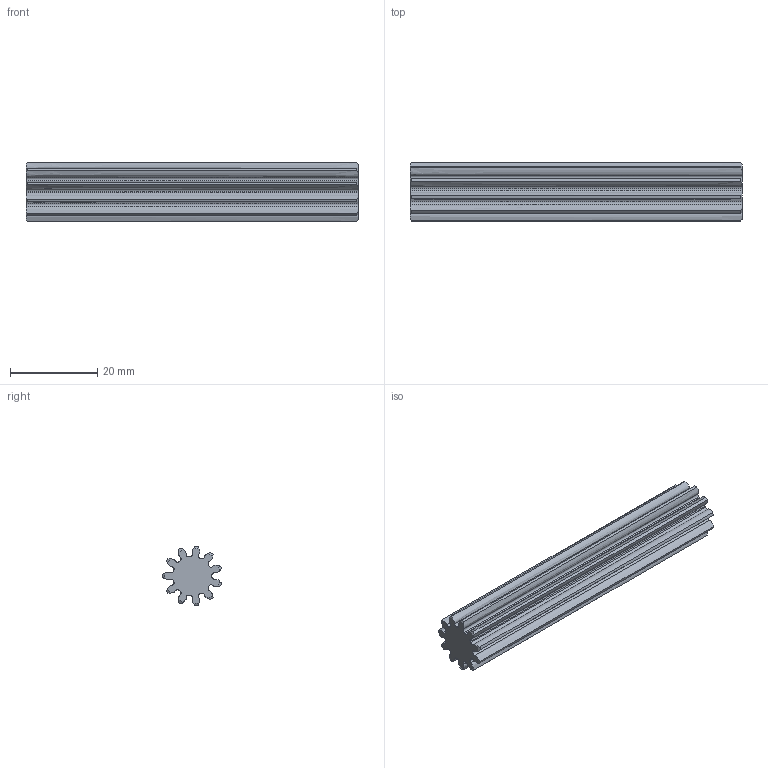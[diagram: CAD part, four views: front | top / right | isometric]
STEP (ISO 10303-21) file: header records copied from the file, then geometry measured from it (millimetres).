
FILE_DESCRIPTION((''),'2;1');
FILE_NAME('15885','2011-02-16T',('carefree'),(''),'PRO/ENGINEER BY PARAMETRIC TECHNOLOGY CORPORATION, 2005030','PRO/ENGINEER BY PARAMETRIC TECHNOLOGY CORPORATION, 2005030','');
FILE_SCHEMA(('CONFIG_CONTROL_DESIGN'));
Length unit declared in the file: inch
Products named in the file (1): 15885
Bounding box: 76.2 x 13.56 x 13.69 mm (x, y, z)
Volume: 7697.4 mm3; surface area: 5812.3 mm2
Topology: 1 solids, 1 shells, 90 faces, 264 edges, 176 vertices
Faces by surface type: cylinder 44, cone 22, extrusion 22, plane 2
Entity records: 3932 total; most frequent: CARTESIAN_POINT 1560, ORIENTED_EDGE 528, DIRECTION 444, EDGE_CURVE 264, AXIS2_PLACEMENT_3D 178, VERTEX_POINT 176, B_SPLINE_CURVE_WITH_KNOTS 110, CIRCLE 110
